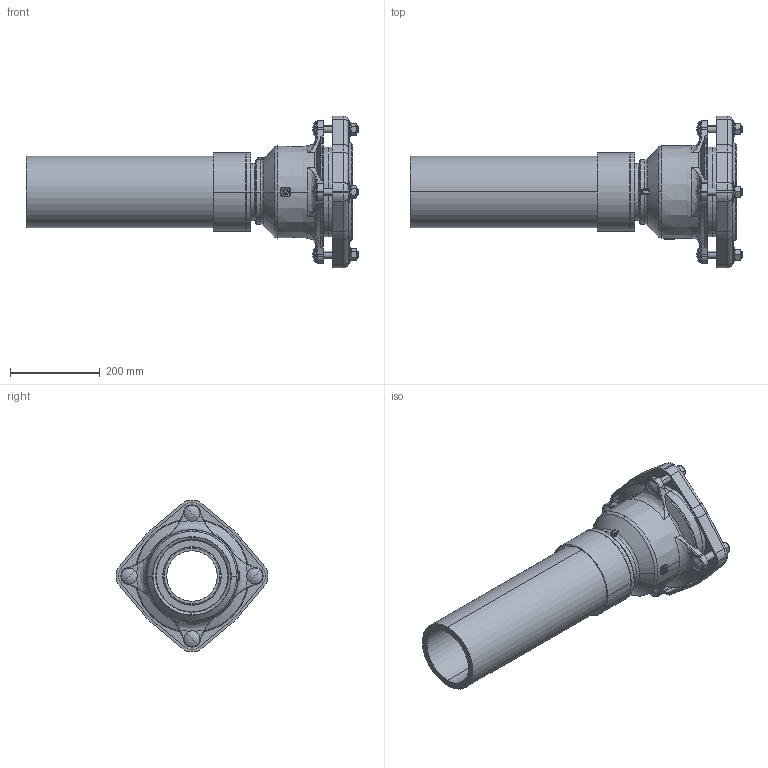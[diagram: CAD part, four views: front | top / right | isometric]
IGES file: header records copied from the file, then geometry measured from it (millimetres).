
Global section: file name: No Iges File Name specified; native system: AutoDesk Inventor R12.0; preprocessor: AutoDesk Inventor Iges Exporter R12.0; date: 20120509.113853; units: millimetre
Bounding box: 741.94 x 338.8 x 338.8 mm (x, y, z)
Volume: 5583212.9 mm3; surface area: 1070831 mm2
Topology: 1 solids, 1 shells, 887 faces, 2339 edges, 1485 vertices
Faces by surface type: plane 350, cylinder 152, revolution 113, bspline 110, torus 81, cone 81
